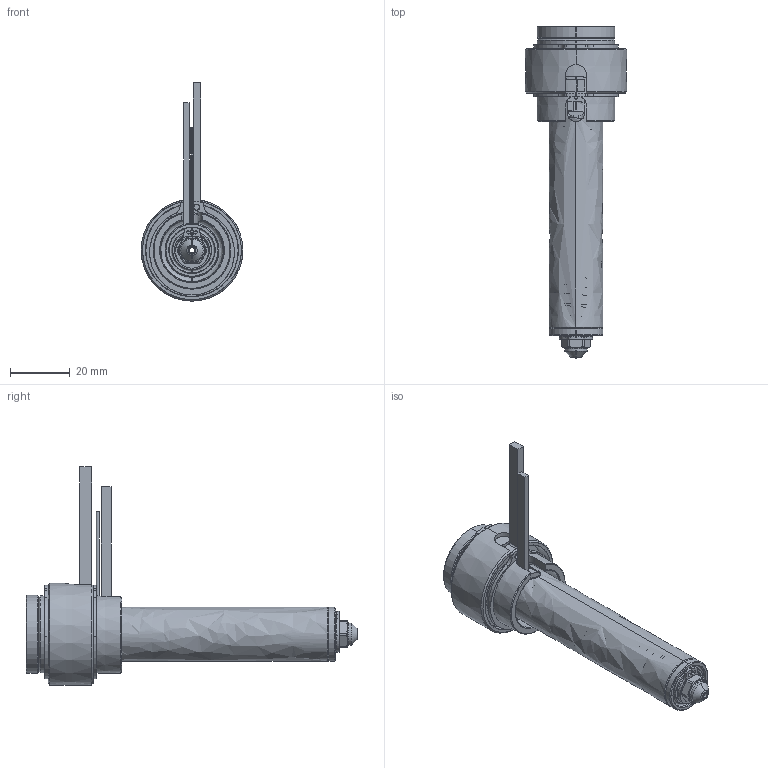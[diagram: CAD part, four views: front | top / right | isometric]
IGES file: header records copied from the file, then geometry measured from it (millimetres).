
Start section: SolidWorks IGES file using analytic representation for surfaces
Global section: file name: C:\Documents and Settings\ws-20\Desktop\TEM\UGER2503-S-A-0 [Øb-1.90 ØC-4.0].IGS; native system: SolidWorks 2012; preprocessor: SolidWorks 2012; author: ws-20; date: 120405.101952; units: millimetre
Bounding box: 34 x 110.9 x 72.9 mm (x, y, z)
Surface area: 25065.1 mm2 (no closed solid volume)
Topology: 0 solids, 0 shells, 198 faces, 2587 edges, 2587 vertices
Faces by surface type: revolution 127, bspline 71
